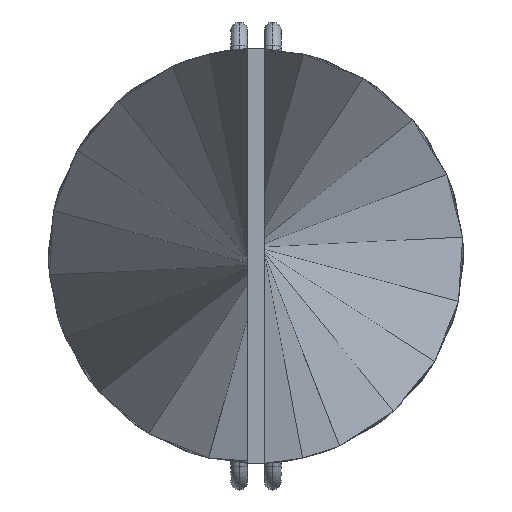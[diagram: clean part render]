
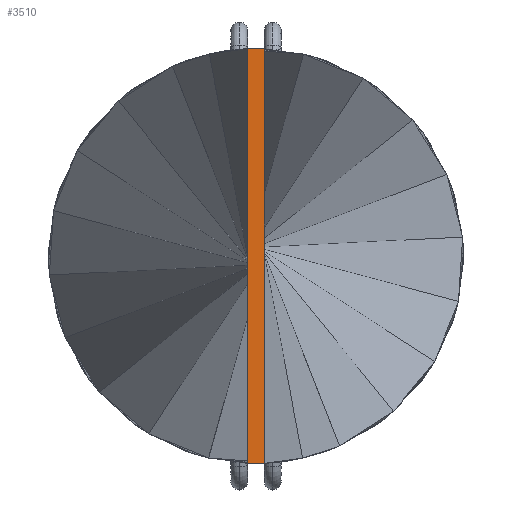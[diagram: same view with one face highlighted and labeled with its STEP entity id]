
A CAD part, left-side view. The second image highlights one B-rep face of the part: STEP entity #3510.
In plain terms, the highlighted planar face has unit normal (-1, 0, 0).
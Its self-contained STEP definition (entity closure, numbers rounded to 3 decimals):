
#11 = LINE ( 'NONE', #1655, #3048 ) ;
#125 = DIRECTION ( 'NONE',  ( 0., 1., 0. ) ) ;
#418 = CARTESIAN_POINT ( 'NONE',  ( -300., -0.5, -12.4 ) ) ;
#452 = VERTEX_POINT ( 'NONE', #3016 ) ;
#469 = VERTEX_POINT ( 'NONE', #2020 ) ;
#733 = DIRECTION ( 'NONE',  ( 0., 0., 1. ) ) ;
#746 = PLANE ( 'NONE',  #2169 ) ;
#765 = VECTOR ( 'NONE', #2075, 1000. ) ;
#889 = CARTESIAN_POINT ( 'NONE',  ( -300., 0.5, -12.4 ) ) ;
#1012 = EDGE_CURVE ( 'NONE', #3118, #2260, #3017, .T. ) ;
#1159 = LINE ( 'NONE', #418, #2653 ) ;
#1270 = FACE_OUTER_BOUND ( 'NONE', #2268, .T. ) ;
#1470 = EDGE_CURVE ( 'NONE', #452, #469, #3754, .T. ) ;
#1471 = ORIENTED_EDGE ( 'NONE', *, *, #1012, .T. ) ;
#1628 = DIRECTION ( 'NONE',  ( -1., 0., 0. ) ) ;
#1655 = CARTESIAN_POINT ( 'NONE',  ( -300., 0.5, 12.4 ) ) ;
#1891 = CARTESIAN_POINT ( 'NONE',  ( -300., -0.5, 12.4 ) ) ;
#2020 = CARTESIAN_POINT ( 'NONE',  ( -300., 0.5, 12.4 ) ) ;
#2075 = DIRECTION ( 'NONE',  ( 0., -1., 0. ) ) ;
#2169 = AXIS2_PLACEMENT_3D ( 'NONE', #3675, #1628, #3687 ) ;
#2199 = VECTOR ( 'NONE', #125, 1000. ) ;
#2260 = VERTEX_POINT ( 'NONE', #3789 ) ;
#2268 = EDGE_LOOP ( 'NONE', ( #1471, #2697, #2281, #3082 ) ) ;
#2281 = ORIENTED_EDGE ( 'NONE', *, *, #1470, .T. ) ;
#2653 = VECTOR ( 'NONE', #733, 1000. ) ;
#2697 = ORIENTED_EDGE ( 'NONE', *, *, #2736, .T. ) ;
#2736 = EDGE_CURVE ( 'NONE', #2260, #452, #1159, .T. ) ;
#2749 = DIRECTION ( 'NONE',  ( 0., 0., -1. ) ) ;
#2856 = EDGE_CURVE ( 'NONE', #469, #3118, #11, .T. ) ;
#3016 = CARTESIAN_POINT ( 'NONE',  ( -300., -0.5, 12.4 ) ) ;
#3017 = LINE ( 'NONE', #889, #765 ) ;
#3048 = VECTOR ( 'NONE', #2749, 1000. ) ;
#3082 = ORIENTED_EDGE ( 'NONE', *, *, #2856, .T. ) ;
#3118 = VERTEX_POINT ( 'NONE', #3376 ) ;
#3376 = CARTESIAN_POINT ( 'NONE',  ( -300., 0.5, -12.4 ) ) ;
#3510 = ADVANCED_FACE ( 'NONE', ( #1270 ), #746, .T. ) ;
#3675 = CARTESIAN_POINT ( 'NONE',  ( -300., 0., 0. ) ) ;
#3687 = DIRECTION ( 'NONE',  ( 0., 0., 1. ) ) ;
#3754 = LINE ( 'NONE', #1891, #2199 ) ;
#3789 = CARTESIAN_POINT ( 'NONE',  ( -300., -0.5, -12.4 ) ) ;
